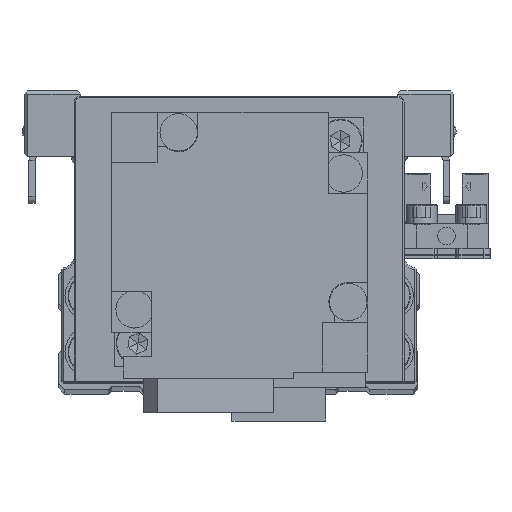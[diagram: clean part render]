
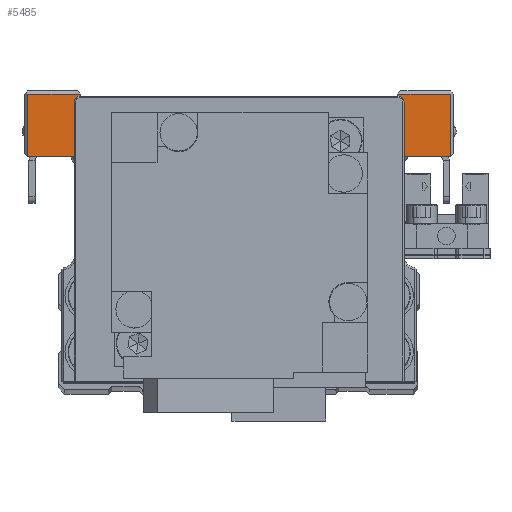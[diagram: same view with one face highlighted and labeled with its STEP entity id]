
A CAD part, top view. The second image highlights one B-rep face of the part: STEP entity #5485.
In plain terms, the highlighted planar face has unit normal (0, 0, 1) as drawn and (1, 0, 0) by its records, which use the part's own axes.
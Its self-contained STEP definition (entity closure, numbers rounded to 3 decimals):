
#262 = ORIENTED_EDGE ( 'NONE', *, *, #11913, .F. ) ;
#406 = VERTEX_POINT ( 'NONE', #22768 ) ;
#897 = ORIENTED_EDGE ( 'NONE', *, *, #13574, .F. ) ;
#1098 = CARTESIAN_POINT ( 'NONE',  ( 25.5, -6., 16.5 ) ) ;
#1490 = CARTESIAN_POINT ( 'NONE',  ( 25.5, -5.7, -16.5 ) ) ;
#1661 = DIRECTION ( 'NONE',  ( 0., 0., -1. ) ) ;
#1753 = VECTOR ( 'NONE', #4528, 1000. ) ;
#1766 = VECTOR ( 'NONE', #6366, 1000. ) ;
#1965 = CARTESIAN_POINT ( 'NONE',  ( 25.5, -6., 16.2 ) ) ;
#2858 = ORIENTED_EDGE ( 'NONE', *, *, #18124, .T. ) ;
#3419 = VERTEX_POINT ( 'NONE', #29077 ) ;
#4528 = DIRECTION ( 'NONE',  ( 0., 0., 1. ) ) ;
#5150 = VERTEX_POINT ( 'NONE', #1490 ) ;
#5485 = ADVANCED_FACE ( 'NONE', ( #9388 ), #19977, .F. ) ;
#5609 = EDGE_CURVE ( 'NONE', #21754, #10317, #23278, .T. ) ;
#5675 = LINE ( 'NONE', #16259, #16291 ) ;
#6034 = DIRECTION ( 'NONE',  ( 0., -1., 0. ) ) ;
#6366 = DIRECTION ( 'NONE',  ( 0., 1., 0. ) ) ;
#6419 = DIRECTION ( 'NONE',  ( 0., 1., 0. ) ) ;
#6783 = DIRECTION ( 'NONE',  ( -1., 0., 0. ) ) ;
#6973 = CARTESIAN_POINT ( 'NONE',  ( 25.5, 5., 16.5 ) ) ;
#7193 = CARTESIAN_POINT ( 'NONE',  ( 25.5, 15., 34. ) ) ;
#7411 = CARTESIAN_POINT ( 'NONE',  ( 25.5, 10.5, -25.5 ) ) ;
#7576 = LINE ( 'NONE', #18165, #28329 ) ;
#7893 = EDGE_CURVE ( 'NONE', #28347, #18709, #11883, .T. ) ;
#8183 = CARTESIAN_POINT ( 'NONE',  ( 25.5, 15., -34. ) ) ;
#9286 = VECTOR ( 'NONE', #1661, 1000. ) ;
#9368 = VERTEX_POINT ( 'NONE', #28723 ) ;
#9388 = FACE_OUTER_BOUND ( 'NONE', #19754, .T. ) ;
#10075 = DIRECTION ( 'NONE',  ( 0., 0., -1. ) ) ;
#10135 = CARTESIAN_POINT ( 'NONE',  ( 25.5, 15., -25.5 ) ) ;
#10288 = VECTOR ( 'NONE', #33061, 1000. ) ;
#10317 = VERTEX_POINT ( 'NONE', #23787 ) ;
#10662 = LINE ( 'NONE', #21241, #21819 ) ;
#10728 = ORIENTED_EDGE ( 'NONE', *, *, #22622, .F. ) ;
#10755 = CARTESIAN_POINT ( 'NONE',  ( 25.5, -6., -16.2 ) ) ;
#11115 = EDGE_CURVE ( 'NONE', #10317, #406, #30292, .T. ) ;
#11463 = ORIENTED_EDGE ( 'NONE', *, *, #11115, .T. ) ;
#11499 = EDGE_CURVE ( 'NONE', #9368, #28347, #19607, .T. ) ;
#11693 = DIRECTION ( 'NONE',  ( 0., 0., 1. ) ) ;
#11883 = LINE ( 'NONE', #22476, #10288 ) ;
#11913 = EDGE_CURVE ( 'NONE', #16911, #5150, #19232, .T. ) ;
#12542 = VERTEX_POINT ( 'NONE', #7193 ) ;
#12882 = LINE ( 'NONE', #23470, #17991 ) ;
#13574 = EDGE_CURVE ( 'NONE', #31065, #18709, #5675, .T. ) ;
#13980 = CARTESIAN_POINT ( 'NONE',  ( 25.5, 15., 25.5 ) ) ;
#14105 = VECTOR ( 'NONE', #6419, 1000. ) ;
#14871 = LINE ( 'NONE', #25460, #9286 ) ;
#16188 = ORIENTED_EDGE ( 'NONE', *, *, #32370, .T. ) ;
#16221 = CARTESIAN_POINT ( 'NONE',  ( 25.5, 10.5, -25.5 ) ) ;
#16259 = CARTESIAN_POINT ( 'NONE',  ( 25.5, 10.5, -25.5 ) ) ;
#16291 = VECTOR ( 'NONE', #26850, 1000. ) ;
#16334 = ORIENTED_EDGE ( 'NONE', *, *, #28291, .T. ) ;
#16911 = VERTEX_POINT ( 'NONE', #21412 ) ;
#17370 = DIRECTION ( 'NONE',  ( 0., 0., 1. ) ) ;
#17563 = DIRECTION ( 'NONE',  ( 0., -1., 0. ) ) ;
#17718 = LINE ( 'NONE', #28306, #1753 ) ;
#17907 = ORIENTED_EDGE ( 'NONE', *, *, #30472, .F. ) ;
#17927 = ORIENTED_EDGE ( 'NONE', *, *, #33223, .T. ) ;
#17991 = VECTOR ( 'NONE', #34045, 1000. ) ;
#18000 = DIRECTION ( 'NONE',  ( 0., 0., -1. ) ) ;
#18124 = EDGE_CURVE ( 'NONE', #16911, #9368, #14871, .T. ) ;
#18165 = CARTESIAN_POINT ( 'NONE',  ( 25.5, -6., 16.2 ) ) ;
#18594 = VECTOR ( 'NONE', #18000, 1000. ) ;
#18709 = VERTEX_POINT ( 'NONE', #10135 ) ;
#19232 = LINE ( 'NONE', #29820, #33998 ) ;
#19562 = LINE ( 'NONE', #30147, #1766 ) ;
#19607 = LINE ( 'NONE', #30193, #14105 ) ;
#19754 = EDGE_LOOP ( 'NONE', ( #33190, #17927, #23487, #27039, #11463, #16188, #10728, #16334, #262, #2858, #21045, #21233, #897, #17907 ) ) ;
#19977 = PLANE ( 'NONE',  #30439 ) ;
#20320 = VECTOR ( 'NONE', #11693, 1000. ) ;
#21045 = ORIENTED_EDGE ( 'NONE', *, *, #11499, .T. ) ;
#21233 = ORIENTED_EDGE ( 'NONE', *, *, #7893, .T. ) ;
#21241 = CARTESIAN_POINT ( 'NONE',  ( 25.5, 5., 34. ) ) ;
#21412 = CARTESIAN_POINT ( 'NONE',  ( 25.5, 5., -16.5 ) ) ;
#21531 = VERTEX_POINT ( 'NONE', #10755 ) ;
#21754 = VERTEX_POINT ( 'NONE', #25312 ) ;
#21819 = VECTOR ( 'NONE', #31824, 1000. ) ;
#22476 = CARTESIAN_POINT ( 'NONE',  ( 25.5, 15., -25.5 ) ) ;
#22622 = EDGE_CURVE ( 'NONE', #21531, #34162, #24891, .T. ) ;
#22768 = CARTESIAN_POINT ( 'NONE',  ( 25.5, -5.7, 16.5 ) ) ;
#23278 = LINE ( 'NONE', #33853, #31569 ) ;
#23470 = CARTESIAN_POINT ( 'NONE',  ( 25.5, -6., -16.2 ) ) ;
#23487 = ORIENTED_EDGE ( 'NONE', *, *, #34301, .T. ) ;
#23787 = CARTESIAN_POINT ( 'NONE',  ( 25.5, 5., 16.5 ) ) ;
#24891 = LINE ( 'NONE', #1098, #20320 ) ;
#25312 = CARTESIAN_POINT ( 'NONE',  ( 25.5, 5., 34. ) ) ;
#25460 = CARTESIAN_POINT ( 'NONE',  ( 25.5, 5., -34.5 ) ) ;
#26520 = EDGE_CURVE ( 'NONE', #3419, #33937, #19562, .T. ) ;
#26850 = DIRECTION ( 'NONE',  ( 0., 1., 0. ) ) ;
#27039 = ORIENTED_EDGE ( 'NONE', *, *, #5609, .T. ) ;
#28291 = EDGE_CURVE ( 'NONE', #21531, #5150, #12882, .T. ) ;
#28306 = CARTESIAN_POINT ( 'NONE',  ( 25.5, 15., 34. ) ) ;
#28329 = VECTOR ( 'NONE', #28750, 1000. ) ;
#28347 = VERTEX_POINT ( 'NONE', #8183 ) ;
#28723 = CARTESIAN_POINT ( 'NONE',  ( 25.5, 5., -34. ) ) ;
#28750 = DIRECTION ( 'NONE',  ( 0., -0.707, -0.707 ) ) ;
#29077 = CARTESIAN_POINT ( 'NONE',  ( 25.5, 10.5, 25.5 ) ) ;
#29820 = CARTESIAN_POINT ( 'NONE',  ( 25.5, 5., -16.5 ) ) ;
#30147 = CARTESIAN_POINT ( 'NONE',  ( 25.5, 10.5, 25.5 ) ) ;
#30193 = CARTESIAN_POINT ( 'NONE',  ( 25.5, 5., -34. ) ) ;
#30292 = LINE ( 'NONE', #6973, #31821 ) ;
#30439 = AXIS2_PLACEMENT_3D ( 'NONE', #30564, #6783, #17370 ) ;
#30472 = EDGE_CURVE ( 'NONE', #3419, #31065, #31190, .T. ) ;
#30564 = CARTESIAN_POINT ( 'NONE',  ( 25.5, 5., -16.5 ) ) ;
#31065 = VERTEX_POINT ( 'NONE', #16221 ) ;
#31190 = LINE ( 'NONE', #7411, #18594 ) ;
#31569 = VECTOR ( 'NONE', #10075, 1000. ) ;
#31821 = VECTOR ( 'NONE', #17563, 1000. ) ;
#31824 = DIRECTION ( 'NONE',  ( 0., -1., 0. ) ) ;
#32370 = EDGE_CURVE ( 'NONE', #406, #34162, #7576, .T. ) ;
#33061 = DIRECTION ( 'NONE',  ( 0., 0., 1. ) ) ;
#33190 = ORIENTED_EDGE ( 'NONE', *, *, #26520, .T. ) ;
#33223 = EDGE_CURVE ( 'NONE', #33937, #12542, #17718, .T. ) ;
#33853 = CARTESIAN_POINT ( 'NONE',  ( 25.5, 5., -34.5 ) ) ;
#33937 = VERTEX_POINT ( 'NONE', #13980 ) ;
#33998 = VECTOR ( 'NONE', #6034, 1000. ) ;
#34045 = DIRECTION ( 'NONE',  ( 0., 0.707, -0.707 ) ) ;
#34162 = VERTEX_POINT ( 'NONE', #1965 ) ;
#34301 = EDGE_CURVE ( 'NONE', #12542, #21754, #10662, .T. ) ;
